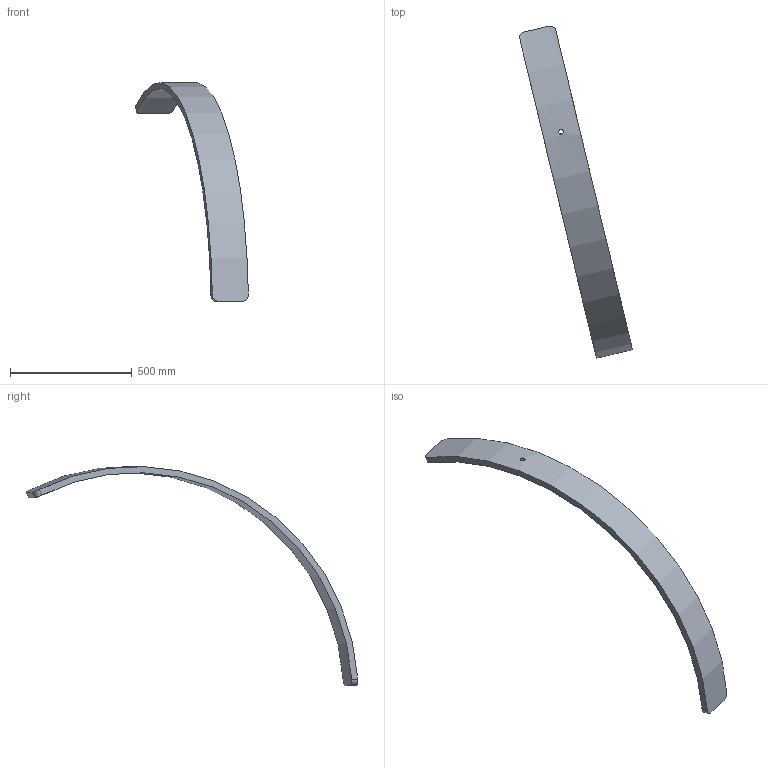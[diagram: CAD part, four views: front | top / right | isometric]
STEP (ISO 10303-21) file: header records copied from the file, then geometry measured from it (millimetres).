
FILE_DESCRIPTION (( 'STEP AP214' ), '1' );
FILE_NAME ('Section 12 AR.STEP', '2025-01-09T19:43:25', ( '' ), ( '' ), 'SwSTEP 2.0', 'SolidWorks 2024', '' );
FILE_SCHEMA (( 'AUTOMOTIVE_DESIGN' ));
Length unit declared in the file: inch
Products named in the file (1): Section 12 AR
Bounding box: 463.62 x 1364.14 x 900.56 mm (x, y, z)
Volume: 7186275.6 mm3; surface area: 668625 mm2
Topology: 1 solids, 1 shells, 11 faces, 27 edges, 18 vertices
Faces by surface type: cylinder 7, plane 4
Full cylindrical faces by diameter (mm): 19.447 x1
Entity records: 745 total; most frequent: CARTESIAN_POINT 470, ORIENTED_EDGE 52, DIRECTION 44, EDGE_CURVE 26, VERTEX_POINT 18, AXIS2_PLACEMENT_3D 16, EDGE_LOOP 14, FACE_OUTER_BOUND 12
